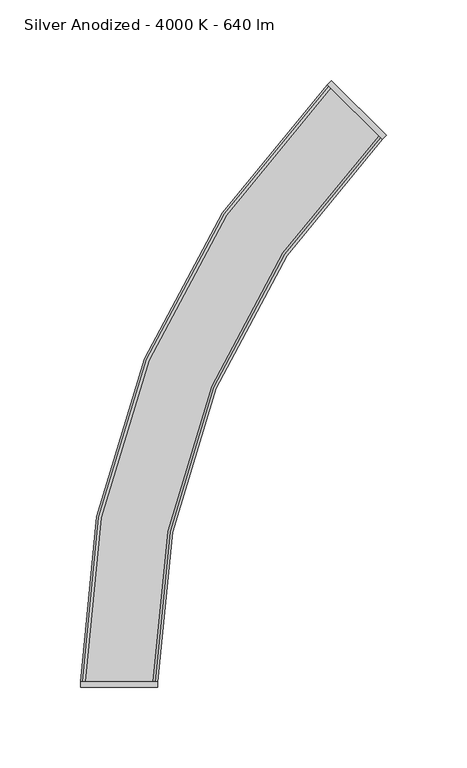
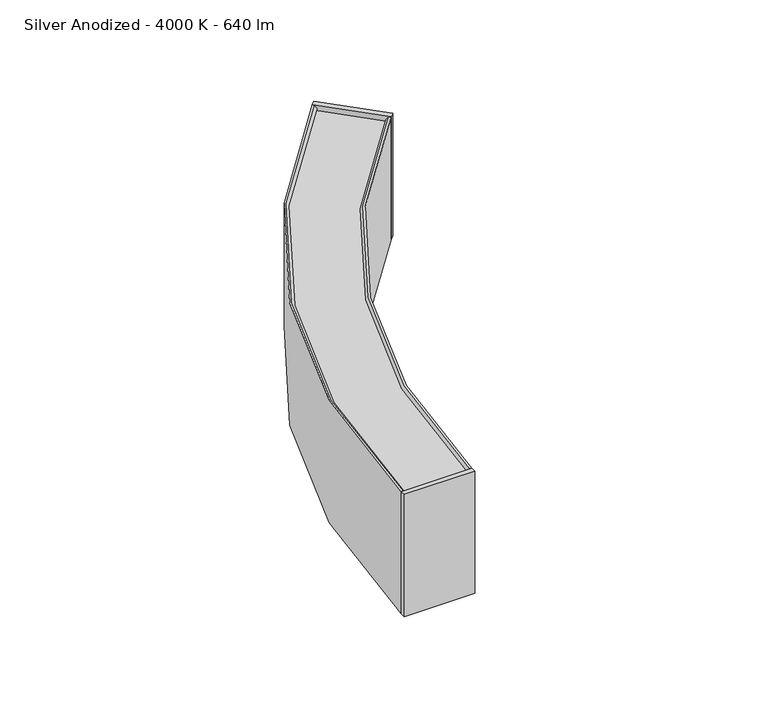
"""IFC4 building model written with IfcOpenShell, lengths in millimetres: light fixture geometry, KLUŚ - SERPENT - R NT 1_8 r 500 : Silver Anodized - 4000 K - 640 lm."""

from ifc_helpers import new_model, si_unit, point, frame, frame_2d, origin, origin_with_axes, place, context, project, spatial, polyline, circle_curve, trimmed, segment, composite_curve, outline, extrude, source, transform, mapped, element, save
from ifc_brep_helpers import plane_surface, cylinder_surface, revolved_surface, advanced_brep


def silver_anodized_4000_k_640_lm_8bc370e9(model_context):
    return source(origin(), model_context, "Body", "SolidModel", [
        advanced_brep(
        [(100.259572, 293.6385367, 0.8), (100.259572, 293.6385367, 0.0), (93.8121457, 298.3746421, 0.0), (93.8121457, 298.3746421, 0.8), (116.6070393, 299.0014008, 0.0), (94.0410474, 315.5777699, 0.0), (89.2457741, 319.1002483, 5.3344882), (89.2457741, 319.1002483, 14.5), (89.8905168, 318.6266377, 14.5), (89.8905168, 318.6266377, 5.691693), (94.287753, 315.3965466, 0.8), (116.3603337, 299.1826241, 0.8), (120.75757, 295.952533, 5.691693), (120.75757, 295.952533, 14.5), (121.4023126, 295.4789224, 14.5), (121.4023126, 295.4789224, 5.3344882), (100.0306703, 276.4354089, 0.0), (104.8259436, 272.9129305, 5.3344882), (104.8259436, 272.9129305, 14.5), (104.181201, 273.3865411, 14.5), (104.181201, 273.3865411, 5.691693), (99.7839647, 276.6166322, 0.8), (77.711384, 292.8305547, 0.8), (73.3141478, 296.0606458, 5.691693), (73.3141478, 296.0606458, 14.5), (72.6694051, 296.5342564, 14.5), (72.6694051, 296.5342564, 5.3344882), (77.4646784, 293.011778, 0.0)],
        [
            (0, 1),
            (1, 2, circle_curve(frame((97.0358589, 296.0065894, 0.0), z_axis=(0.0, 0.0, -1.0), x_axis=(0.8059282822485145, -0.5920131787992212, 0.0)), 4.0)),
            (2, 3),
            (3, 0, circle_curve(frame((97.0358589, 296.0065894, 0.8), z_axis=(0.0, 0.0, 1.0), x_axis=(0.8059282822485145, -0.5920131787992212, 0.0)), 4.0)),
            (0, 3, circle_curve(frame((97.0358589, 296.0065894, 0.8), z_axis=(0.0, 0.0, 1.0), x_axis=(0.8059282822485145, -0.5920131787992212, 0.0)), 4.0)),
            (2, 1, circle_curve(frame((97.0358589, 296.0065894, 0.0), z_axis=(0.0, 0.0, -1.0), x_axis=(0.8059282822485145, -0.5920131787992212, 0.0)), 4.0)),
            (4, 5),
            (5, 6),
            (6, 7),
            (7, 8),
            (8, 9),
            (9, 10),
            (10, 11),
            (11, 12),
            (12, 13),
            (13, 14),
            (14, 15),
            (15, 4),
            (16, 17),
            (17, 18),
            (18, 19),
            (19, 20),
            (20, 21),
            (21, 22),
            (22, 23),
            (23, 24),
            (24, 25),
            (25, 26),
            (26, 27),
            (27, 16),
            (4, 16),
            (27, 5),
            (26, 6),
            (25, 7),
            (24, 8),
            (23, 9),
            (22, 10),
            (21, 11),
            (20, 12),
            (19, 13),
            (18, 14),
            (17, 15),
        ],
        [
            revolved_surface(polyline([(100.25957202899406, 293.6385366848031, 0.8), (100.25957202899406, 293.6385366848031, 0.0)]), (97.0358589, 296.0065894, 0.0), (0.0, 0.0, 1.0)),
            plane_surface(frame((105.3240434, 307.2895854, 0.0), z_axis=(0.5920131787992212, 0.8059282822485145, 0.0), x_axis=(0.0, 0.0, 1.0))),
            plane_surface(frame((88.7476744, 284.7235934, 0.0), z_axis=(-0.5920131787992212, -0.8059282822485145, 0.0), x_axis=(0.0, 0.0, 1.0))),
            plane_surface(frame((116.6070393, 299.0014008, 0.0), z_axis=(0.0, 0.0, -1.0), x_axis=(-0.5920131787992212, -0.8059282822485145, 0.0))),
            plane_surface(frame((94.0410474, 315.5777699, 0.0), z_axis=(-0.537993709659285, 0.39519566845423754, -0.7445691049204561), x_axis=(-0.5920131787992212, -0.8059282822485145, 0.0))),
            plane_surface(frame((89.2457741, 319.1002483, 5.3344882), z_axis=(-0.8059282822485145, 0.5920131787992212, 0.0), x_axis=(-0.5920131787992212, -0.8059282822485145, 0.0))),
            plane_surface(frame((89.2457741, 319.1002483, 14.5), z_axis=(0.0, 0.0, 1.0), x_axis=(-0.5920131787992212, -0.8059282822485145, 0.0))),
            plane_surface(frame((89.8905168, 318.6266377, 14.5), z_axis=(0.8059282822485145, -0.5920131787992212, 0.0), x_axis=(-0.5920131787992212, -0.8059282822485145, 0.0))),
            plane_surface(frame((89.8905168, 318.6266377, 5.691693), z_axis=(0.537993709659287, -0.395195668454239, 0.7445691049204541), x_axis=(-0.5920131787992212, -0.8059282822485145, 0.0))),
            plane_surface(frame((94.287753, 315.3965466, 0.8), z_axis=(0.0, 0.0, 1.0), x_axis=(-0.5920131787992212, -0.8059282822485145, 0.0))),
            plane_surface(frame((116.3603337, 299.1826241, 0.8), z_axis=(-0.5379937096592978, 0.3951956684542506, 0.74456910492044), x_axis=(-0.5920131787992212, -0.8059282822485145, 0.0))),
            plane_surface(frame((120.75757, 295.952533, 5.691693), z_axis=(-0.8059282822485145, 0.5920131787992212, 0.0), x_axis=(-0.5920131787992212, -0.8059282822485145, 0.0))),
            plane_surface(frame((120.75757, 295.952533, 14.5), z_axis=(0.0, 0.0, 1.0), x_axis=(-0.5920131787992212, -0.8059282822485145, 0.0))),
            plane_surface(frame((121.4023126, 295.4789224, 14.5), z_axis=(0.8059282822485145, -0.5920131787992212, 0.0), x_axis=(-0.5920131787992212, -0.8059282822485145, 0.0))),
            plane_surface(frame((121.4023126, 295.4789224, 5.3344882), z_axis=(0.5379937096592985, -0.3951956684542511, -0.7445691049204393), x_axis=(-0.5920131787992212, -0.8059282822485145, 0.0))),
        ],
        [
            (0, [[1, 2, 3, 4]]),
            (0, [[-1, 5, -3, 6]]),
            (1, [[7, 8, 9, 10, 11, 12, 13, 14, 15, 16, 17, 18]]),
            (2, [[19, 20, 21, 22, 23, 24, 25, 26, 27, 28, 29, 30]]),
            (3, [[-7, 31, -30, 32], [-2, -6]]),
            (4, [[-8, -32, -29, 33]]),
            (5, [[-9, -33, -28, 34]]),
            (6, [[-10, -34, -27, 35]]),
            (7, [[-11, -35, -26, 36]]),
            (8, [[-12, -36, -25, 37]]),
            (9, [[-13, -37, -24, 38], [-4, -5]]),
            (10, [[-14, -38, -23, 39]]),
            (11, [[-15, -39, -22, 40]]),
            (12, [[-16, -40, -21, 41]]),
            (13, [[-17, -41, -20, 42]]),
            (14, [[-18, -42, -19, -31]]),
        ],
    ),
        extrude(outline(polyline([(131.9509204, 372.9988271), (165.8920459, 339.0577016), (163.4171722, 336.5828278), (129.4760467, 370.5239533), (131.9509204, 372.9988271)])), frame((0.0, 0.0, 5.0), z_axis=(0.0, 0.0, 1.0), x_axis=(1.0, 0.0, 0.0)), (0.0, 0.0, 1.0), 88.0),
        extrude(outline(polyline([(24.0, -3.5), (-24.0, -3.5), (-24.0, 0.0), (24.0, 0.0), (24.0, -3.5)])), frame((0.0, 0.0, 5.0), z_axis=(0.0, 0.0, 1.0), x_axis=(1.0, 0.0, 0.0)), (0.0, 0.0, 1.0), 88.0),
        advanced_brep(
        [(9.7070321, 75.0253668, 0.8), (9.7070321, 75.0253668, 0.0), (1.799081, 76.2354534, 0.0), (1.799081, 76.2354534, 0.8), (21.7096225, 87.3516731, 0.0), (-5.9682063, 91.586976, 0.0), (-11.849745, 92.4869779, 5.3344882), (-11.849745, 92.4869779, 14.5), (-11.0589499, 92.3659692, 14.5), (-11.0589499, 92.3659692, 5.691693), (-5.6656149, 91.540673, 0.8), (21.4070311, 87.397976, 0.8), (26.800366, 86.5726798, 5.691693), (26.800366, 86.5726798, 14.5), (27.5911611, 86.4516712, 14.5), (27.5911611, 86.4516712, 5.3344882), (17.4743195, 59.6738442, 0.0), (23.3558582, 58.7738423, 5.3344882), (23.3558582, 58.7738423, 14.5), (22.565063, 58.894851, 14.5), (22.565063, 58.894851, 5.691693), (17.1717281, 59.7201472, 0.8), (-9.9009179, 63.8628442, 0.8), (-15.2942528, 64.6881404, 5.691693), (-15.2942528, 64.6881404, 14.5), (-16.0850479, 64.8091491, 14.5), (-16.0850479, 64.8091491, 5.3344882), (-10.2035093, 63.9091472, 0.0)],
        [
            (0, 1),
            (1, 2, circle_curve(frame((5.7530566, 75.6304101, 0.0), z_axis=(0.0, 0.0, -1.0), x_axis=(0.9884938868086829, -0.15126082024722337, 0.0)), 4.0)),
            (2, 3),
            (3, 0, circle_curve(frame((5.7530566, 75.6304101, 0.8), z_axis=(0.0, 0.0, 1.0), x_axis=(0.9884938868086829, -0.15126082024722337, 0.0)), 4.0)),
            (0, 3, circle_curve(frame((5.7530566, 75.6304101, 0.8), z_axis=(0.0, 0.0, 1.0), x_axis=(0.9884938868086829, -0.15126082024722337, 0.0)), 4.0)),
            (2, 1, circle_curve(frame((5.7530566, 75.6304101, 0.0), z_axis=(0.0, 0.0, -1.0), x_axis=(0.9884938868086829, -0.15126082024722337, 0.0)), 4.0)),
            (4, 5),
            (5, 6),
            (6, 7),
            (7, 8),
            (8, 9),
            (9, 10),
            (10, 11),
            (11, 12),
            (12, 13),
            (13, 14),
            (14, 15),
            (15, 4),
            (16, 17),
            (17, 18),
            (18, 19),
            (19, 20),
            (20, 21),
            (21, 22),
            (22, 23),
            (23, 24),
            (24, 25),
            (25, 26),
            (26, 27),
            (27, 16),
            (4, 16),
            (27, 5),
            (26, 6),
            (25, 7),
            (24, 8),
            (23, 9),
            (22, 10),
            (21, 11),
            (20, 12),
            (19, 13),
            (18, 14),
            (17, 15),
        ],
        [
            revolved_surface(polyline([(9.707032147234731, 75.02536681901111, 0.8), (9.707032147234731, 75.02536681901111, 0.0)]), (5.7530566, 75.6304101, 0.0), (0.0, 0.0, 1.0)),
            plane_surface(frame((7.8707081, 89.4693245, 0.0), z_axis=(0.15126082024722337, 0.9884938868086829, 0.0), x_axis=(0.0, 0.0, 1.0))),
            plane_surface(frame((3.6354051, 61.7914957, 0.0), z_axis=(-0.15126082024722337, -0.9884938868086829, 0.0), x_axis=(0.0, 0.0, 1.0))),
            plane_surface(frame((21.7096225, 87.3516731, 0.0), z_axis=(0.0, 0.0, -1.0), x_axis=(-0.15126082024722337, -0.9884938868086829, 0.0))),
            plane_surface(frame((-5.9682063, 91.586976, 0.0), z_axis=(-0.6598645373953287, 0.10097346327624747, -0.744569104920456), x_axis=(-0.15126082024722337, -0.9884938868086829, 0.0))),
            plane_surface(frame((-11.849745, 92.4869779, 5.3344882), z_axis=(-0.9884938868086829, 0.15126082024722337, 0.0), x_axis=(-0.15126082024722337, -0.9884938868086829, 0.0))),
            plane_surface(frame((-11.849745, 92.4869779, 14.5), z_axis=(0.0, 0.0, 1.0), x_axis=(-0.15126082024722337, -0.9884938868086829, 0.0))),
            plane_surface(frame((-11.0589499, 92.3659692, 14.5), z_axis=(0.9884938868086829, -0.15126082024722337, 0.0), x_axis=(-0.15126082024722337, -0.9884938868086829, 0.0))),
            plane_surface(frame((-11.0589499, 92.3659692, 5.691693), z_axis=(0.6598645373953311, -0.10097346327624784, 0.7445691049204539), x_axis=(-0.15126082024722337, -0.9884938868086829, 0.0))),
            plane_surface(frame((-5.6656149, 91.540673, 0.8), z_axis=(0.0, 0.0, 1.0), x_axis=(-0.15126082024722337, -0.9884938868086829, 0.0))),
            plane_surface(frame((21.4070311, 87.397976, 0.8), z_axis=(-0.6598645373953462, 0.10097346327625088, 0.7445691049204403), x_axis=(-0.15126082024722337, -0.9884938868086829, 0.0))),
            plane_surface(frame((26.800366, 86.5726798, 5.691693), z_axis=(-0.9884938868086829, 0.15126082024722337, 0.0), x_axis=(-0.15126082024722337, -0.9884938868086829, 0.0))),
            plane_surface(frame((26.800366, 86.5726798, 14.5), z_axis=(0.0, 0.0, 1.0), x_axis=(-0.15126082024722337, -0.9884938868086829, 0.0))),
            plane_surface(frame((27.5911611, 86.4516712, 14.5), z_axis=(0.9884938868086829, -0.15126082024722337, 0.0), x_axis=(-0.15126082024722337, -0.9884938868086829, 0.0))),
            plane_surface(frame((27.5911611, 86.4516712, 5.3344882), z_axis=(0.6598645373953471, -0.10097346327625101, -0.7445691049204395), x_axis=(-0.15126082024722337, -0.9884938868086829, 0.0))),
        ],
        [
            (0, [[1, 2, 3, 4]]),
            (0, [[-1, 5, -3, 6]]),
            (1, [[7, 8, 9, 10, 11, 12, 13, 14, 15, 16, 17, 18]]),
            (2, [[19, 20, 21, 22, 23, 24, 25, 26, 27, 28, 29, 30]]),
            (3, [[-7, 31, -30, 32], [-2, -6]]),
            (4, [[-8, -32, -29, 33]]),
            (5, [[-9, -33, -28, 34]]),
            (6, [[-10, -34, -27, 35]]),
            (7, [[-11, -35, -26, 36]]),
            (8, [[-12, -36, -25, 37]]),
            (9, [[-13, -37, -24, 38], [-4, -5]]),
            (10, [[-14, -38, -23, 39]]),
            (11, [[-15, -39, -22, 40]]),
            (12, [[-16, -40, -21, 41]]),
            (13, [[-17, -41, -20, 42]]),
            (14, [[-18, -42, -19, -31]]),
        ],
    ),
        advanced_brep(
        [(19.95, 0.0, 5.0), (24.0, 0.0, 5.0), (24.0, 0.0, 93.0), (22.65, 0.0, 93.0), (21.15, 0.0, 91.2514719), (22.65, 0.0, 89.5029437), (22.65, 0.0, 13.7), (19.95, 0.0, 13.7), (160.5533897, 339.4466103, 5.0), (160.5533897, 339.4466103, 13.7), (162.462578, 337.537422, 13.7), (162.462578, 337.537422, 89.5029437), (161.4019178, 338.5980822, 91.2514719), (162.462578, 337.537422, 93.0), (163.4171722, 336.5828278, 93.0), (163.4171722, 336.5828278, 5.0)],
        [
            (0, 1),
            (1, 2),
            (2, 3),
            (3, 4),
            (4, 5),
            (5, 6),
            (6, 7),
            (7, 0),
            (8, 9),
            (9, 10),
            (10, 11),
            (11, 12),
            (12, 13),
            (13, 14),
            (14, 15),
            (15, 8),
            (15, 1, circle_curve(frame((500.0, 0.0, 5.0), z_axis=(0.0, 0.0, 1.0), x_axis=(-1.0, 0.0, 0.0)), 476.0)),
            (0, 8, circle_curve(frame((500.0, 0.0, 5.0), z_axis=(0.0, 0.0, -1.0), x_axis=(-1.0, 0.0, 0.0)), 480.05)),
            (14, 2, circle_curve(frame((500.0, 0.0, 93.0), z_axis=(0.0, 0.0, 1.0), x_axis=(-1.0, 0.0, 0.0)), 476.0)),
            (13, 3, circle_curve(frame((500.0, 0.0, 93.0), z_axis=(0.0, 0.0, 1.0), x_axis=(-1.0, 0.0, 0.0)), 477.35)),
            (12, 4, circle_curve(frame((500.0, 0.0, 91.2514719), z_axis=(0.0, 0.0, 1.0), x_axis=(-1.0, 0.0, 0.0)), 478.85)),
            (11, 5, circle_curve(frame((500.0, 0.0, 89.5029437), z_axis=(0.0, 0.0, 1.0), x_axis=(-1.0, 0.0, 0.0)), 477.35)),
            (10, 6, circle_curve(frame((500.0, 0.0, 13.7), z_axis=(0.0, 0.0, 1.0), x_axis=(-1.0, 0.0, 0.0)), 477.35)),
            (9, 7, circle_curve(frame((500.0, 0.0, 13.7), z_axis=(0.0, 0.0, 1.0), x_axis=(-1.0, 0.0, 0.0)), 480.05)),
        ],
        [
            plane_surface(frame((0.0, 0.0, 5.0), z_axis=(0.0, -1.0, 0.0), x_axis=(0.0, 0.0, 1.0))),
            plane_surface(frame((146.4466094, 353.5533906, 5.0), z_axis=(0.7071067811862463, 0.7071067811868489, 0.0), x_axis=(0.0, 0.0, 1.0))),
            plane_surface(frame((500.0, 0.0, 5.0), z_axis=(0.0, 0.0, -1.0), x_axis=(-1.0, 0.0, 0.0))),
            revolved_surface(polyline([(24.0, 0.0, 5.0), (24.0, 0.0, 93.0)]), (500.0, 0.0, 5.0), (0.0, 0.0, -1.0)),
            plane_surface(frame((500.0, 0.0, 93.0), z_axis=(0.0, 0.0, 1.0), x_axis=(-1.0, 0.0, 0.0))),
            revolved_surface(polyline([(22.65, 0.0, 93.0), (21.15, 0.0, 91.2514719)]), (500.0, 0.0, 5.0), (0.0, 0.0, -1.0)),
            revolved_surface(polyline([(21.15, 0.0, 91.2514719), (22.65, 0.0, 89.5029437)]), (500.0, 0.0, 5.0), (0.0, 0.0, -1.0)),
            cylinder_surface(frame((500.0, 0.0, 5.0), z_axis=(0.0, 0.0, -1.0), x_axis=(-1.0, 0.0, 0.0)), 477.35),
            plane_surface(frame((500.0, 0.0, 13.7), z_axis=(0.0, 0.0, 1.0), x_axis=(-1.0, 0.0, 0.0))),
            cylinder_surface(frame((500.0, 0.0, 5.0), z_axis=(0.0, 0.0, -1.0), x_axis=(-1.0, 0.0, 0.0)), 480.05),
        ],
        [
            (0, [[1, 2, 3, 4, 5, 6, 7, 8]]),
            (1, [[9, 10, 11, 12, 13, 14, 15, 16]]),
            (2, [[17, -1, 18, -16]]),
            (3, [[19, -2, -17, -15]]),
            (4, [[20, -3, -19, -14]]),
            (5, [[21, -4, -20, -13]]),
            (6, [[22, -5, -21, -12]]),
            (7, [[23, -6, -22, -11]]),
            (8, [[24, -7, -23, -10]]),
            (9, [[-18, -8, -24, -9]]),
        ],
    ),
        advanced_brep(
        [(-19.95, 0.0, 5.0), (-19.95, 0.0, 13.7), (-22.65, 0.0, 13.7), (-22.65, 0.0, 89.5029437), (-21.15, 0.0, 91.2514719), (-22.65, 0.0, 93.0), (-24.0, 0.0, 93.0), (-24.0, 0.0, 5.0), (132.3398291, 367.6601709, 5.0), (129.4760467, 370.5239533, 5.0), (129.4760467, 370.5239533, 93.0), (130.4306408, 369.5693592, 93.0), (131.491301, 368.508699, 91.2514719), (130.4306408, 369.5693592, 89.5029437), (130.4306408, 369.5693592, 13.7), (132.3398291, 367.6601709, 13.7)],
        [
            (0, 1),
            (1, 2),
            (2, 3),
            (3, 4),
            (4, 5),
            (5, 6),
            (6, 7),
            (7, 0),
            (8, 9),
            (9, 10),
            (10, 11),
            (11, 12),
            (12, 13),
            (13, 14),
            (14, 15),
            (15, 8),
            (15, 1, circle_curve(frame((500.0, 0.0, 13.7), z_axis=(0.0, 0.0, 1.0), x_axis=(-1.0, 0.0, 0.0)), 519.95)),
            (0, 8, circle_curve(frame((500.0, 0.0, 5.0), z_axis=(0.0, 0.0, -1.0), x_axis=(-1.0, 0.0, 0.0)), 519.95)),
            (14, 2, circle_curve(frame((500.0, 0.0, 13.7), z_axis=(0.0, 0.0, 1.0), x_axis=(-1.0, 0.0, 0.0)), 522.65)),
            (13, 3, circle_curve(frame((500.0, 0.0, 89.5029437), z_axis=(0.0, 0.0, 1.0), x_axis=(-1.0, 0.0, 0.0)), 522.65)),
            (12, 4, circle_curve(frame((500.0, 0.0, 91.2514719), z_axis=(0.0, 0.0, 1.0), x_axis=(-1.0, 0.0, 0.0)), 521.15)),
            (11, 5, circle_curve(frame((500.0, 0.0, 93.0), z_axis=(0.0, 0.0, 1.0), x_axis=(-1.0, 0.0, 0.0)), 522.65)),
            (10, 6, circle_curve(frame((500.0, 0.0, 93.0), z_axis=(0.0, 0.0, 1.0), x_axis=(-1.0, 0.0, 0.0)), 524.0)),
            (9, 7, circle_curve(frame((500.0, 0.0, 5.0), z_axis=(0.0, 0.0, 1.0), x_axis=(-1.0, 0.0, 0.0)), 524.0)),
        ],
        [
            plane_surface(frame((0.0, 0.0, 5.0), z_axis=(0.0, -1.0, 0.0), x_axis=(0.0, 0.0, 1.0))),
            plane_surface(frame((146.4466094, 353.5533906, 5.0), z_axis=(0.7071067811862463, 0.7071067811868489, 0.0), x_axis=(0.0, 0.0, 1.0))),
            revolved_surface(polyline([(-19.950000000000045, 0.0, 5.0), (-19.950000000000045, 0.0, 13.7)]), (500.0, 0.0, 5.0), (0.0, 0.0, -1.0)),
            plane_surface(frame((500.0, 0.0, 13.7), z_axis=(0.0, 0.0, 1.0), x_axis=(-1.0, 0.0, 0.0))),
            revolved_surface(polyline([(-22.649999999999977, 0.0, 13.7), (-22.649999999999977, 0.0, 89.5029437)]), (500.0, 0.0, 5.0), (0.0, 0.0, -1.0)),
            revolved_surface(polyline([(-22.65, 0.0, 89.5029437), (-21.15, 0.0, 91.2514719)]), (500.0, 0.0, 5.0), (0.0, 0.0, -1.0)),
            revolved_surface(polyline([(-21.15, 0.0, 91.2514719), (-22.65, 0.0, 93.0)]), (500.0, 0.0, 5.0), (0.0, 0.0, -1.0)),
            plane_surface(frame((500.0, 0.0, 93.0), z_axis=(0.0, 0.0, 1.0), x_axis=(-1.0, 0.0, 0.0))),
            cylinder_surface(frame((500.0, 0.0, 5.0), z_axis=(0.0, 0.0, -1.0), x_axis=(-1.0, 0.0, 0.0)), 524.0),
            plane_surface(frame((500.0, 0.0, 5.0), z_axis=(0.0, 0.0, -1.0), x_axis=(-1.0, 0.0, 0.0))),
        ],
        [
            (0, [[1, 2, 3, 4, 5, 6, 7, 8]]),
            (1, [[9, 10, 11, 12, 13, 14, 15, 16]]),
            (2, [[17, -1, 18, -16]]),
            (3, [[19, -2, -17, -15]]),
            (4, [[20, -3, -19, -14]]),
            (5, [[21, -4, -20, -13]]),
            (6, [[22, -5, -21, -12]]),
            (7, [[23, -6, -22, -11]]),
            (8, [[24, -7, -23, -10]]),
            (9, [[-18, -8, -24, -9]]),
        ],
    ),
        extrude(outline(composite_curve([segment(trimmed(circle_curve(frame_2d((12.7089907, 114.1754351)), 2.5), [point((15.2089907, 114.1754351))], [point((10.2089907, 114.1754351))], False, "CARTESIAN"), True, "CONTINUOUS"), segment(trimmed(circle_curve(frame_2d((12.7089907, 114.1754351)), 2.5), [point((10.2089907, 114.1754351))], [point((15.2089907, 114.1754351))], False, "CARTESIAN"), True, "CONTINUOUS")], self_intersect=False)), origin_with_axes(), (0.0, 0.0, 1.0), 24.0),
        extrude(outline(composite_curve([segment(trimmed(circle_curve(frame_2d((500.0, 0.0)), 477.35), [point((162.462578, 337.537422))], [point((22.65, 0.0))], True, "CARTESIAN"), True, "CONTINUOUS"), segment(polyline([(22.65, 0.0), (-22.65, 0.0)]), True, "CONTINUOUS"), segment(trimmed(circle_curve(frame_2d((500.0, 0.0)), 522.65), [point((-22.65, 0.0))], [point((130.4306408, 369.5693592))], False, "CARTESIAN"), True, "CONTINUOUS"), segment(polyline([(130.4306408, 369.5693592), (162.462578, 337.537422)]), True, "CONTINUOUS")], self_intersect=False)), frame((0.0, 0.0, 88.0), z_axis=(0.0, 0.0, 1.0), x_axis=(1.0, 0.0, 0.0)), (0.0, 0.0, 1.0), 1.5),
        extrude(outline(composite_curve([segment(trimmed(circle_curve(frame_2d((500.0, 0.0)), 477.35), [point((162.462578, 337.537422))], [point((22.65, 0.0))], True, "CARTESIAN"), True, "CONTINUOUS"), segment(polyline([(22.65, 0.0), (-22.65, 0.0)]), True, "CONTINUOUS"), segment(trimmed(circle_curve(frame_2d((500.0, 0.0)), 522.65), [point((-22.65, 0.0))], [point((130.4306408, 369.5693592))], False, "CARTESIAN"), True, "CONTINUOUS"), segment(polyline([(130.4306408, 369.5693592), (162.462578, 337.537422)]), True, "CONTINUOUS")], self_intersect=False)), frame((0.0, 0.0, 24.0), z_axis=(0.0, 0.0, 1.0), x_axis=(1.0, 0.0, 0.0)), (0.0, 0.0, 1.0), 2.0),
        extrude(outline(composite_curve([segment(trimmed(circle_curve(frame_2d((500.0, 0.0)), 477.35), [point((162.462578, 337.537422))], [point((22.65, 0.0))], True, "CARTESIAN"), True, "CONTINUOUS"), segment(polyline([(22.65, 0.0), (-22.65, 0.0)]), True, "CONTINUOUS"), segment(trimmed(circle_curve(frame_2d((500.0, 0.0)), 522.65), [point((-22.65, 0.0))], [point((130.4306408, 369.5693592))], False, "CARTESIAN"), True, "CONTINUOUS"), segment(polyline([(130.4306408, 369.5693592), (162.462578, 337.537422)]), True, "CONTINUOUS")], self_intersect=False)), frame((0.0, 0.0, 59.5), z_axis=(0.0, 0.0, 1.0), x_axis=(1.0, 0.0, 0.0)), (0.0, 0.0, 1.0), 1.5),
    ])


if __name__ == "__main__":
    model = new_model("IFC4")
    model_context = context("Model", 3, world=origin())
    ifc_project = project(units=[si_unit("LENGTHUNIT", "METRE", prefix="MILLI")], contexts=[model_context])
    site = spatial("IfcSite", under=ifc_project)
    building = spatial("IfcBuilding", under=site)
    placement = place(None, origin())
    silver_anodized_4000_k_640_lm_shape = silver_anodized_4000_k_640_lm_8bc370e9(model_context)
    element("IfcLightFixture", 1, ObjectType="KLUŚ - SERPENT - R NT 1_8 r 500 : Silver Anodized - 4000 K - 640 lm", at=placement, inside=building, context=model_context, shape_type="MappedRepresentation", body=[
        mapped(silver_anodized_4000_k_640_lm_shape, transform((0.0, 0.0, 0.0), x_axis=(1.0, 0.0, 0.0), y_axis=(0.0, 1.0, 0.0), z_axis=(0.0, 0.0, 1.0))),
    ])
    save(model, "model.ifc")
